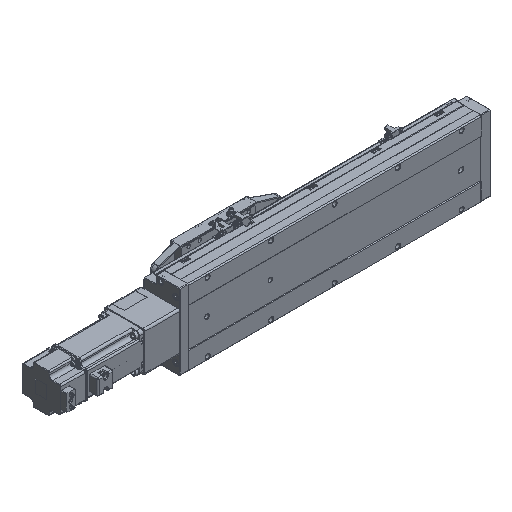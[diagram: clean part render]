
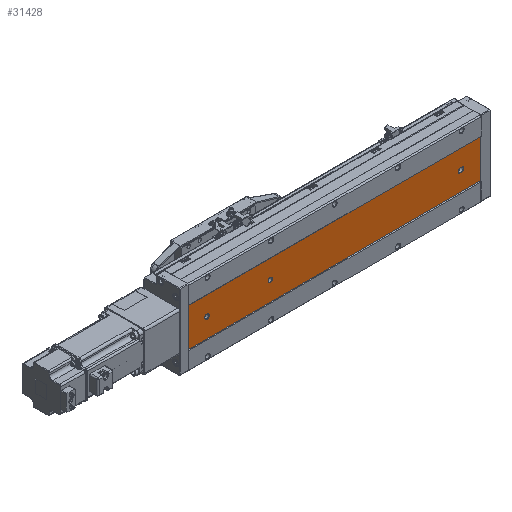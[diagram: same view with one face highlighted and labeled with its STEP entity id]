
A CAD part, isometric view. The second image highlights one B-rep face of the part: STEP entity #31428.
In plain terms, the highlighted planar face has unit normal (0, -1, 0).
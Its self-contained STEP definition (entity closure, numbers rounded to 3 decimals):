
#524 = CIRCLE ( 'NONE', #18092, 3.5 ) ;
#918 = LINE ( 'NONE', #8202, #80186 ) ;
#3307 = AXIS2_PLACEMENT_3D ( 'NONE', #47239, #33529, #8708 ) ;
#4499 = DIRECTION ( 'NONE',  ( 0., 0., -1. ) ) ;
#4562 = AXIS2_PLACEMENT_3D ( 'NONE', #81717, #41927, #81448 ) ;
#5736 = DIRECTION ( 'NONE',  ( 0., 1., 0. ) ) ;
#6021 = DIRECTION ( 'NONE',  ( 0., 0., 1. ) ) ;
#6492 = DIRECTION ( 'NONE',  ( 0., 0., 1. ) ) ;
#7113 = VERTEX_POINT ( 'NONE', #54708 ) ;
#7631 = DIRECTION ( 'NONE',  ( 0., 0., -1. ) ) ;
#7809 = ORIENTED_EDGE ( 'NONE', *, *, #55842, .T. ) ;
#8202 = CARTESIAN_POINT ( 'NONE',  ( -69.892, -52.848, 0. ) ) ;
#8708 = DIRECTION ( 'NONE',  ( 0., 0., 1. ) ) ;
#8943 = AXIS2_PLACEMENT_3D ( 'NONE', #34867, #81425, #41608 ) ;
#9114 = ORIENTED_EDGE ( 'NONE', *, *, #13885, .T. ) ;
#9242 = CARTESIAN_POINT ( 'NONE',  ( -43.392, -52.848, 30. ) ) ;
#9584 = DIRECTION ( 'NONE',  ( 1., 0., 0. ) ) ;
#10749 = CIRCLE ( 'NONE', #15727, 3.5 ) ;
#11292 = ORIENTED_EDGE ( 'NONE', *, *, #23904, .T. ) ;
#12613 = FACE_BOUND ( 'NONE', #71768, .T. ) ;
#13276 = ORIENTED_EDGE ( 'NONE', *, *, #44196, .F. ) ;
#13808 = DIRECTION ( 'NONE',  ( 0., 0., 1. ) ) ;
#13885 = EDGE_CURVE ( 'NONE', #69836, #54467, #22885, .T. ) ;
#14591 = CIRCLE ( 'NONE', #8943, 3.5 ) ;
#15286 = CIRCLE ( 'NONE', #3307, 3.5 ) ;
#15416 = LINE ( 'NONE', #64574, #28018 ) ;
#15727 = AXIS2_PLACEMENT_3D ( 'NONE', #53796, #26410, #13808 ) ;
#15833 = VECTOR ( 'NONE', #9584, 1000. ) ;
#17588 = VERTEX_POINT ( 'NONE', #50075 ) ;
#18092 = AXIS2_PLACEMENT_3D ( 'NONE', #64239, #63673, #31047 ) ;
#21060 = LINE ( 'NONE', #68712, #15833 ) ;
#22178 = CIRCLE ( 'NONE', #79799, 3.5 ) ;
#22381 = EDGE_CURVE ( 'NONE', #54467, #23344, #71235, .T. ) ;
#22885 = LINE ( 'NONE', #42102, #63566 ) ;
#23344 = VERTEX_POINT ( 'NONE', #49354 ) ;
#23904 = EDGE_CURVE ( 'NONE', #78219, #17588, #524, .T. ) ;
#23949 = ORIENTED_EDGE ( 'NONE', *, *, #22381, .T. ) ;
#26410 = DIRECTION ( 'NONE',  ( 0., 1., 0. ) ) ;
#27135 = CARTESIAN_POINT ( 'NONE',  ( -9.892, -52.848, 461. ) ) ;
#27158 = ORIENTED_EDGE ( 'NONE', *, *, #42671, .T. ) ;
#27595 = PLANE ( 'NONE',  #4562 ) ;
#28018 = VECTOR ( 'NONE', #77662, 1000. ) ;
#28805 = EDGE_CURVE ( 'NONE', #23344, #53124, #15286, .T. ) ;
#29528 = DIRECTION ( 'NONE',  ( 0., 1., 0. ) ) ;
#31047 = DIRECTION ( 'NONE',  ( 0., 0., 1. ) ) ;
#31428 = ADVANCED_FACE ( 'NONE', ( #52313, #12613, #39696, #48092 ), #27595, .F. ) ;
#32738 = CARTESIAN_POINT ( 'NONE',  ( -43.392, -52.848, 461. ) ) ;
#33529 = DIRECTION ( 'NONE',  ( 0., 1., 0. ) ) ;
#34082 = EDGE_LOOP ( 'NONE', ( #46182, #64800, #9114, #23949, #40595 ) ) ;
#34867 = CARTESIAN_POINT ( 'NONE',  ( -39.892, -52.848, 32. ) ) ;
#35179 = CARTESIAN_POINT ( 'NONE',  ( -9.892, -52.848, 0. ) ) ;
#35405 = EDGE_CURVE ( 'NONE', #45572, #7113, #50555, .T. ) ;
#35642 = CIRCLE ( 'NONE', #48919, 3.5 ) ;
#37618 = CARTESIAN_POINT ( 'NONE',  ( -36.392, -52.848, 32. ) ) ;
#37831 = CARTESIAN_POINT ( 'NONE',  ( -39.892, -52.848, 434.5 ) ) ;
#38948 = ORIENTED_EDGE ( 'NONE', *, *, #82841, .T. ) ;
#39696 = FACE_BOUND ( 'NONE', #55472, .T. ) ;
#40436 = EDGE_CURVE ( 'NONE', #45572, #49592, #21060, .T. ) ;
#40595 = ORIENTED_EDGE ( 'NONE', *, *, #28805, .T. ) ;
#41156 = ORIENTED_EDGE ( 'NONE', *, *, #80738, .T. ) ;
#41608 = DIRECTION ( 'NONE',  ( 0., 0., 1. ) ) ;
#41688 = DIRECTION ( 'NONE',  ( 0., 1., 0. ) ) ;
#41927 = DIRECTION ( 'NONE',  ( 0., 1., 0. ) ) ;
#42102 = CARTESIAN_POINT ( 'NONE',  ( -36.392, -52.848, 461. ) ) ;
#42671 = EDGE_CURVE ( 'NONE', #44097, #45742, #35642, .T. ) ;
#44097 = VERTEX_POINT ( 'NONE', #63999 ) ;
#44196 = EDGE_CURVE ( 'NONE', #49592, #75158, #15416, .T. ) ;
#45572 = VERTEX_POINT ( 'NONE', #69537 ) ;
#45742 = VERTEX_POINT ( 'NONE', #72134 ) ;
#46182 = ORIENTED_EDGE ( 'NONE', *, *, #86246, .T. ) ;
#46396 = VECTOR ( 'NONE', #4499, 1000. ) ;
#47172 = ORIENTED_EDGE ( 'NONE', *, *, #40436, .F. ) ;
#47239 = CARTESIAN_POINT ( 'NONE',  ( -39.892, -52.848, 30. ) ) ;
#47486 = VERTEX_POINT ( 'NONE', #75155 ) ;
#48092 = FACE_OUTER_BOUND ( 'NONE', #58252, .T. ) ;
#48367 = DIRECTION ( 'NONE',  ( 0., 0., 1. ) ) ;
#48919 = AXIS2_PLACEMENT_3D ( 'NONE', #75518, #29528, #82830 ) ;
#49354 = CARTESIAN_POINT ( 'NONE',  ( -39.892, -52.848, 26.5 ) ) ;
#49592 = VERTEX_POINT ( 'NONE', #27135 ) ;
#50075 = CARTESIAN_POINT ( 'NONE',  ( -39.892, -52.848, 427.5 ) ) ;
#50555 = LINE ( 'NONE', #77333, #46396 ) ;
#52313 = FACE_BOUND ( 'NONE', #34082, .T. ) ;
#53124 = VERTEX_POINT ( 'NONE', #9242 ) ;
#53286 = CARTESIAN_POINT ( 'NONE',  ( -39.892, -52.848, 431. ) ) ;
#53796 = CARTESIAN_POINT ( 'NONE',  ( -39.892, -52.848, 331. ) ) ;
#54234 = VECTOR ( 'NONE', #6492, 1000. ) ;
#54467 = VERTEX_POINT ( 'NONE', #56273 ) ;
#54708 = CARTESIAN_POINT ( 'NONE',  ( -69.892, -52.848, 0. ) ) ;
#55472 = EDGE_LOOP ( 'NONE', ( #41156, #11292 ) ) ;
#55842 = EDGE_CURVE ( 'NONE', #45742, #44097, #10749, .T. ) ;
#56273 = CARTESIAN_POINT ( 'NONE',  ( -36.392, -52.848, 30. ) ) ;
#58252 = EDGE_LOOP ( 'NONE', ( #38948, #13276, #47172, #62491 ) ) ;
#59359 = AXIS2_PLACEMENT_3D ( 'NONE', #68381, #41688, #48367 ) ;
#62491 = ORIENTED_EDGE ( 'NONE', *, *, #35405, .T. ) ;
#63566 = VECTOR ( 'NONE', #7631, 1000. ) ;
#63673 = DIRECTION ( 'NONE',  ( 0., 1., 0. ) ) ;
#63999 = CARTESIAN_POINT ( 'NONE',  ( -39.892, -52.848, 327.5 ) ) ;
#64239 = CARTESIAN_POINT ( 'NONE',  ( -39.892, -52.848, 431. ) ) ;
#64574 = CARTESIAN_POINT ( 'NONE',  ( -9.892, -52.848, 461. ) ) ;
#64800 = ORIENTED_EDGE ( 'NONE', *, *, #82376, .T. ) ;
#68381 = CARTESIAN_POINT ( 'NONE',  ( -39.892, -52.848, 30. ) ) ;
#68712 = CARTESIAN_POINT ( 'NONE',  ( -69.892, -52.848, 461. ) ) ;
#68783 = DIRECTION ( 'NONE',  ( 1., 0., 0. ) ) ;
#69537 = CARTESIAN_POINT ( 'NONE',  ( -69.892, -52.848, 461. ) ) ;
#69836 = VERTEX_POINT ( 'NONE', #37618 ) ;
#71235 = CIRCLE ( 'NONE', #59359, 3.5 ) ;
#71768 = EDGE_LOOP ( 'NONE', ( #27158, #7809 ) ) ;
#71911 = LINE ( 'NONE', #32738, #54234 ) ;
#72134 = CARTESIAN_POINT ( 'NONE',  ( -39.892, -52.848, 334.5 ) ) ;
#75155 = CARTESIAN_POINT ( 'NONE',  ( -43.392, -52.848, 32. ) ) ;
#75158 = VERTEX_POINT ( 'NONE', #35179 ) ;
#75518 = CARTESIAN_POINT ( 'NONE',  ( -39.892, -52.848, 331. ) ) ;
#77333 = CARTESIAN_POINT ( 'NONE',  ( -69.892, -52.848, 461. ) ) ;
#77662 = DIRECTION ( 'NONE',  ( 0., 0., -1. ) ) ;
#78219 = VERTEX_POINT ( 'NONE', #37831 ) ;
#79799 = AXIS2_PLACEMENT_3D ( 'NONE', #53286, #5736, #6021 ) ;
#80186 = VECTOR ( 'NONE', #68783, 1000. ) ;
#80738 = EDGE_CURVE ( 'NONE', #17588, #78219, #22178, .T. ) ;
#81425 = DIRECTION ( 'NONE',  ( 0., 1., 0. ) ) ;
#81448 = DIRECTION ( 'NONE',  ( 0., 0., 1. ) ) ;
#81717 = CARTESIAN_POINT ( 'NONE',  ( -69.892, -52.848, 461. ) ) ;
#82376 = EDGE_CURVE ( 'NONE', #47486, #69836, #14591, .T. ) ;
#82830 = DIRECTION ( 'NONE',  ( 0., 0., 1. ) ) ;
#82841 = EDGE_CURVE ( 'NONE', #7113, #75158, #918, .T. ) ;
#86246 = EDGE_CURVE ( 'NONE', #53124, #47486, #71911, .T. ) ;
